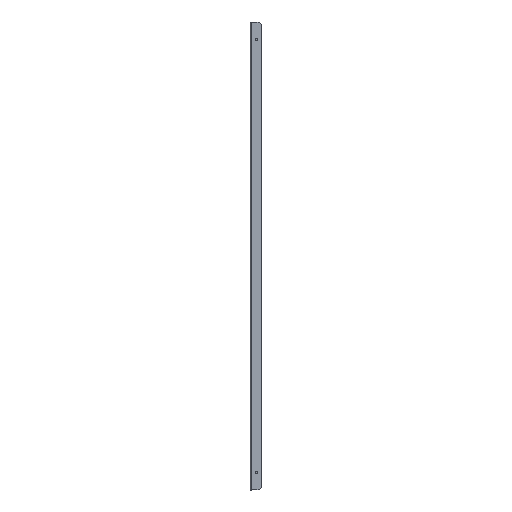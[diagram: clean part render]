
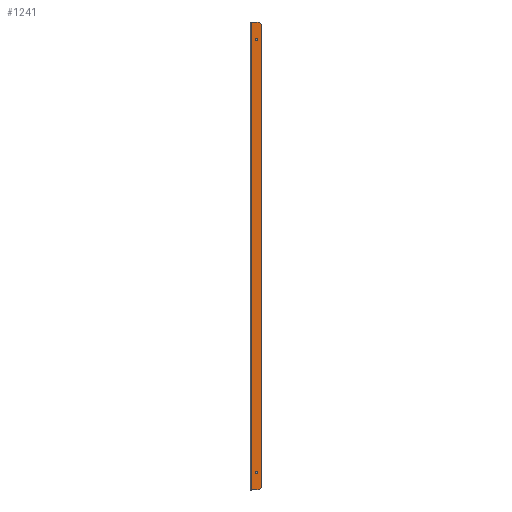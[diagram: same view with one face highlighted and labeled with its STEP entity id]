
A CAD part, left-side view. The second image highlights one B-rep face of the part: STEP entity #1241.
In plain terms, the highlighted planar face has unit normal (-1, 0, 0).
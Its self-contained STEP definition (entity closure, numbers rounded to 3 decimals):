
#306=CARTESIAN_POINT(' ',(0.,-10.4,-437.25));
#307=VERTEX_POINT(' ',#306);
#321=CARTESIAN_POINT(' ',(0.,-12.5,-437.25));
#326=DIRECTION(' ',(-1.,0.,0.));
#331=DIRECTION(' ',(0.,1.,0.));
#336=AXIS2_PLACEMENT_3D(' ',#321,#326,#331);
#341=CIRCLE('',#336,2.1);
#346=CARTESIAN_POINT(' ',(0.,-14.6,-437.25));
#347=VERTEX_POINT(' ',#346);
#351=EDGE_CURVE(' ',#307,#347,#341,.T.);
#836=CARTESIAN_POINT(' ',(0.,-12.5,-437.25));
#841=DIRECTION(' ',(-1.,0.,0.));
#846=DIRECTION(' ',(0.,-1.,0.));
#851=AXIS2_PLACEMENT_3D(' ',#836,#841,#846);
#856=CIRCLE('',#851,2.1);
#861=EDGE_CURVE(' ',#347,#307,#856,.T.);
#886=DIRECTION(' ',(-1.,0.,0.));
#891=CARTESIAN_POINT(' ',(0.,-2.1,-472.5));
#896=DIRECTION(' ',(0.,-1.,0.));
#901=AXIS2_PLACEMENT_3D(' ',#891,#886,#896);
#906=PLANE('NONE',#901);
#911=CARTESIAN_POINT(' ',(0.,-18.,-472.5));
#916=DIRECTION(' ',(0.,1.,0.));
#921=VECTOR(' ',#916,1.);
#926=LINE('',#911,#921);
#931=CARTESIAN_POINT(' ',(0.,-18.,-472.5));
#932=VERTEX_POINT(' ',#931);
#936=CARTESIAN_POINT(' ',(0.,-2.1,-472.5));
#937=VERTEX_POINT(' ',#936);
#941=EDGE_CURVE(' ',#932,#937,#926,.T.);
#946=ORIENTED_EDGE(' ',*,*,#941,.F.);
#951=CARTESIAN_POINT(' ',(0.,-18.,-472.5));
#956=DIRECTION(' ',(0.,-0.707,0.707));
#961=VECTOR(' ',#956,1.);
#966=LINE('',#951,#961);
#971=CARTESIAN_POINT(' ',(0.,-23.,-467.5));
#972=VERTEX_POINT(' ',#971);
#976=EDGE_CURVE(' ',#932,#972,#966,.T.);
#981=ORIENTED_EDGE(' ',*,*,#976,.T.);
#986=CARTESIAN_POINT(' ',(0.,-23.,467.5));
#991=DIRECTION(' ',(0.,0.,-1.));
#996=VECTOR(' ',#991,1.);
#1001=LINE('',#986,#996);
#1006=CARTESIAN_POINT(' ',(0.,-23.,467.5));
#1007=VERTEX_POINT(' ',#1006);
#1011=EDGE_CURVE(' ',#1007,#972,#1001,.T.);
#1016=ORIENTED_EDGE(' ',*,*,#1011,.F.);
#1021=CARTESIAN_POINT(' ',(0.,-23.,467.5));
#1026=DIRECTION(' ',(0.,0.707,0.707));
#1031=VECTOR(' ',#1026,1.);
#1036=LINE('',#1021,#1031);
#1041=CARTESIAN_POINT(' ',(0.,-18.,472.5));
#1042=VERTEX_POINT(' ',#1041);
#1046=EDGE_CURVE(' ',#1007,#1042,#1036,.T.);
#1051=ORIENTED_EDGE(' ',*,*,#1046,.T.);
#1056=CARTESIAN_POINT(' ',(0.,-2.1,472.5));
#1061=DIRECTION(' ',(0.,-1.,0.));
#1066=VECTOR(' ',#1061,1.);
#1071=LINE('',#1056,#1066);
#1076=CARTESIAN_POINT(' ',(0.,-2.1,472.5));
#1077=VERTEX_POINT(' ',#1076);
#1081=EDGE_CURVE(' ',#1077,#1042,#1071,.T.);
#1086=ORIENTED_EDGE(' ',*,*,#1081,.F.);
#1091=CARTESIAN_POINT(' ',(0.,-2.1,472.5));
#1096=DIRECTION(' ',(0.,0.,-1.));
#1101=VECTOR(' ',#1096,1.);
#1106=LINE('',#1091,#1101);
#1111=EDGE_CURVE(' ',#1077,#937,#1106,.T.);
#1116=ORIENTED_EDGE(' ',*,*,#1111,.T.);
#1121=EDGE_LOOP(' ',(#946,#981,#1016,#1051,#1086,#1116));
#1126=FACE_OUTER_BOUND(' ',#1121,.T.);
#1131=ORIENTED_EDGE(' ',*,*,#861,.F.);
#1136=ORIENTED_EDGE(' ',*,*,#351,.F.);
#1141=EDGE_LOOP(' ',(#1131,#1136));
#1146=FACE_BOUND(' ',#1141,.T.);
#1151=CARTESIAN_POINT(' ',(0.,-12.5,437.25));
#1156=DIRECTION(' ',(-1.,0.,0.));
#1161=DIRECTION(' ',(0.,-1.,0.));
#1166=AXIS2_PLACEMENT_3D(' ',#1151,#1156,#1161);
#1171=CIRCLE('',#1166,2.1);
#1176=CARTESIAN_POINT(' ',(0.,-14.6,437.25));
#1177=VERTEX_POINT(' ',#1176);
#1181=CARTESIAN_POINT(' ',(0.,-10.4,437.25));
#1182=VERTEX_POINT(' ',#1181);
#1186=EDGE_CURVE(' ',#1177,#1182,#1171,.T.);
#1191=ORIENTED_EDGE(' ',*,*,#1186,.F.);
#1196=CARTESIAN_POINT(' ',(0.,-12.5,437.25));
#1201=DIRECTION(' ',(-1.,0.,0.));
#1206=DIRECTION(' ',(0.,1.,0.));
#1211=AXIS2_PLACEMENT_3D(' ',#1196,#1201,#1206);
#1216=CIRCLE('',#1211,2.1);
#1221=EDGE_CURVE(' ',#1182,#1177,#1216,.T.);
#1226=ORIENTED_EDGE(' ',*,*,#1221,.F.);
#1231=EDGE_LOOP(' ',(#1191,#1226));
#1236=FACE_BOUND(' ',#1231,.T.);
#1241=ADVANCED_FACE('NONE',(#1126,#1146,#1236),#906,.T.);
